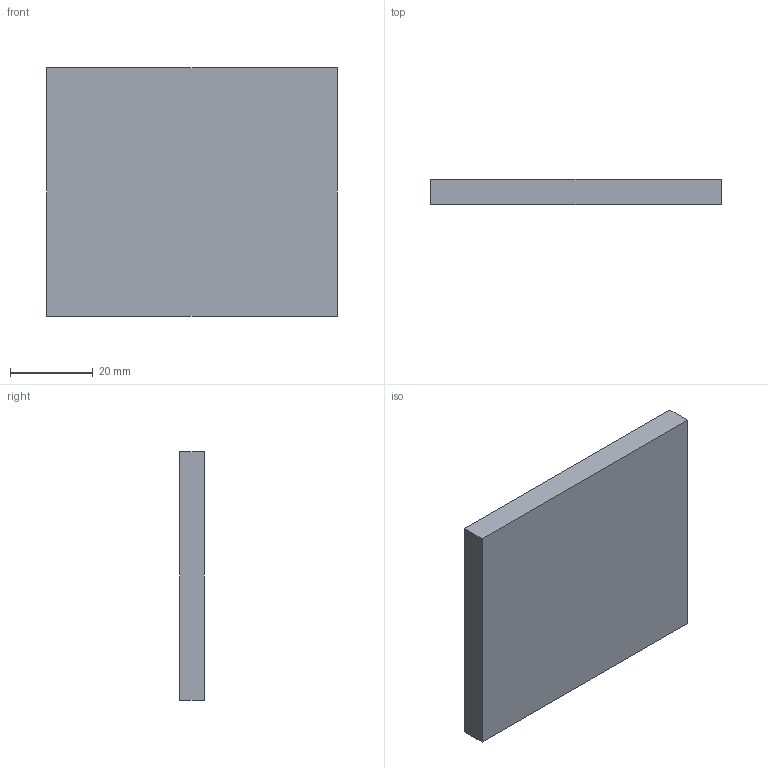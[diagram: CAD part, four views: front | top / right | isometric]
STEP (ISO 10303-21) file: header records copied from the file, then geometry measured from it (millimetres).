
FILE_DESCRIPTION(('Open CASCADE Model'),'2;1');
FILE_NAME('Open CASCADE Shape Model','2026-10-16T19:20:09',('Author'),( 'Open CASCADE'),'Open CASCADE STEP processor 7.8','Open CASCADE 7.8' ,'Unknown');
FILE_SCHEMA(('AUTOMOTIVE_DESIGN { 1 0 10303 214 1 1 1 1 }'));
Length unit declared in the file: millimetre
Products named in the file (1): Open CASCADE STEP translator 7.8 38
Bounding box: 70 x 6 x 60 mm (x, y, z)
Volume: 25200 mm3; surface area: 9960 mm2
Topology: 1 solids, 1 shells, 6 faces, 12 edges, 8 vertices
Faces by surface type: plane 6
Entity records: 322 total; most frequent: CARTESIAN_POINT 51, DIRECTION 50, LINE 36, VECTOR 36, ORIENTED_EDGE 24, PCURVE 24, DEFINITIONAL_REPRESENTATION 24, EDGE_CURVE 12
